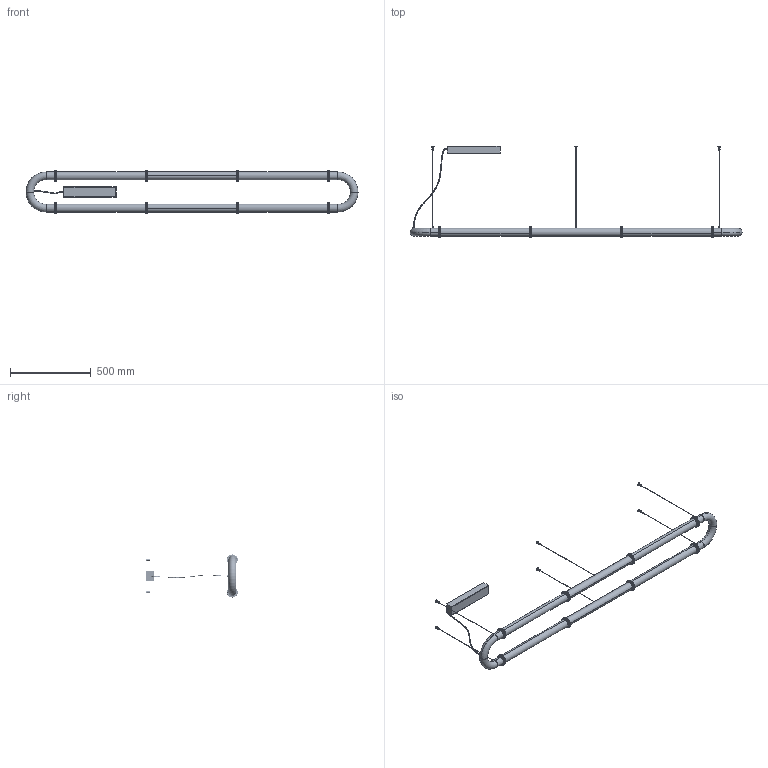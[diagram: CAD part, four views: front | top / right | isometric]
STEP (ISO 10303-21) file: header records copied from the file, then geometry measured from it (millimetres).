
FILE_DESCRIPTION (( 'STEP AP203' ), '1' );
FILE_NAME ('FBN05.LS08.AF01.R00 - Render.STEP', '2026-04-02T09:58:32', ( '' ), ( '' ), 'SwSTEP 2.0', 'SolidWorks 2025', '' );
FILE_SCHEMA (( 'CONFIG_CONTROL_DESIGN' ));
Length unit declared in the file: millimetre
Products named in the file (24): FBN05.LS03.C007.R1A; socket countersunk head screw_1_iso_ISO 10642 - M3 x 6 - 6C; FBN05.LS01.C002.R00; F44 M01; FBN05.LS03.C012.R10; FBN05.LS03.C014.R1A; Grani Steab_GRANO M4X0.7 L.4 NERO CAVA ESAGONALE; FBN05.LS01.C001.R00; FBN05.LS03.C010.R1A; FBN05.LS01.C095.R00; FBN05.LS03.C006.R1A; FBN05.LS08.AF01.R00 - Render; Rosone Cilindrico Ø16 Ø10x18 - Beretta 2031.0802; FBN05.LS03.C098.R00; FBN05.LS08.C001.R00; FBN05.LS08.C002.R00; FBN05.LS04.C024.R1A; FBN05.LS03.C015.R1A; FBN05.LS03.C016.R10; Morsetto Automatico M8x1 Fune Acciaio - Beretta 1010-0802; FBN05.LS01.C003.R00; FBN05.LS03.C005.R10; FBN05.LS03.C009.R1A; FBN05.LS04.C008.R1A
Assembly tree (215 placements, depth 2):
  FBN05.LS08.AF01.R00 - Render
    Grani Steab_GRANO M4X0.7 L.4 NERO CAVA ESAGONALE
    Rosone Cilindrico Ø16 Ø10x18 - Beretta 2031.0802  x6
    Morsetto Automatico M8x1 Fune Acciaio - Beretta 1010-0802  x6
    socket countersunk head screw_1_iso_ISO 10642 - M3 x 6 - 6C  x8
    FBN05.LS03.C015.R1A  x4
    FBN05.LS04.C024.R1A  x4
    FBN05.LS03.C010.R1A  x8
    FBN05.LS04.C008.R1A  x4
    FBN05.LS03.C014.R1A  x64
    FBN05.LS03.C016.R10  x64
    FBN05.LS03.C007.R1A  x8
    FBN05.LS01.C001.R00
    FBN05.LS01.C095.R00
    FBN05.LS08.C001.R00  x2
    FBN05.LS03.C006.R1A  x8
    FBN05.LS03.C005.R10
    FBN05.LS01.C003.R00
    FBN05.LS03.C098.R00  x6
    FBN05.LS03.C012.R10  x6
    F44 M01
    FBN05.LS01.C002.R00
    FBN05.LS03.C009.R1A  x8
    FBN05.LS08.C002.R00  x2
Bounding box: 2054 x 565.22 x 266.44 mm (x, y, z)
Volume: 4016880.2 mm3; surface area: 1890623.4 mm2
Topology: 215 solids, 215 shells, 4589 faces, 10628 edges, 6653 vertices
Faces by surface type: cylinder 2116, plane 1247, cone 656, sphere 524, torus 44, bspline 2
Entity records: 27697 total; most frequent: CARTESIAN_POINT 5281, DIRECTION 3529, ORIENTED_EDGE 2688, AXIS2_PLACEMENT_3D 1478, EDGE_CURVE 1344, VERTEX_POINT 850, EDGE_LOOP 758, CIRCLE 693
